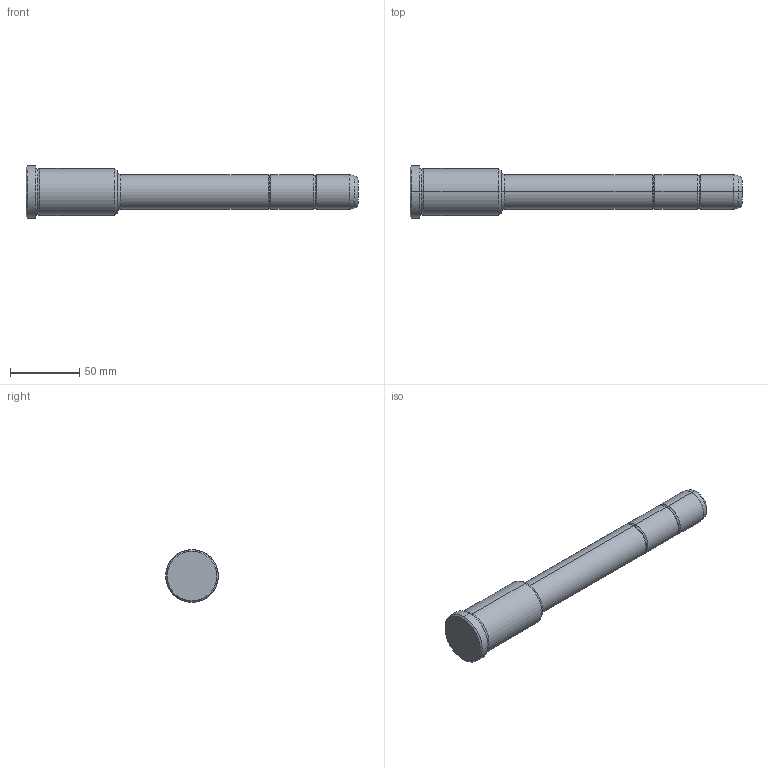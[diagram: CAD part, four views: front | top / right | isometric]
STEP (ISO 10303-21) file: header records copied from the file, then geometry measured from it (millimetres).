
FILE_DESCRIPTION(('CATIA V5 STEP Exchange'),'2;1');
FILE_NAME('C:\Users\Utente\Desktop\IO LAVORO\3D X SITO CF\X SITO\PLASTICA\351\351-25X66X240.stp','2021-09-07T08:41:19+00:00',('none'),('none'),'CATIA Version 5 Release 20 GA (IN-10)','CATIA V5 STEP AP203','none');
FILE_SCHEMA(('CONFIG_CONTROL_DESIGN'));
Length unit declared in the file: millimetre
Products named in the file (1): 351-25X66X240
Bounding box: 240 x 38 x 38 mm (x, y, z)
Volume: 146129.1 mm3; surface area: 22761.9 mm2
Topology: 1 solids, 1 shells, 36 faces, 102 edges, 70 vertices
Faces by surface type: torus 16, cylinder 10, cone 6, plane 4
Entity records: 1292 total; most frequent: CARTESIAN_POINT 321, ORIENTED_EDGE 204, DIRECTION 166, AXIS2_PLACEMENT_3D 115, EDGE_CURVE 102, CIRCLE 78, VERTEX_POINT 70, EDGE_LOOP 38
